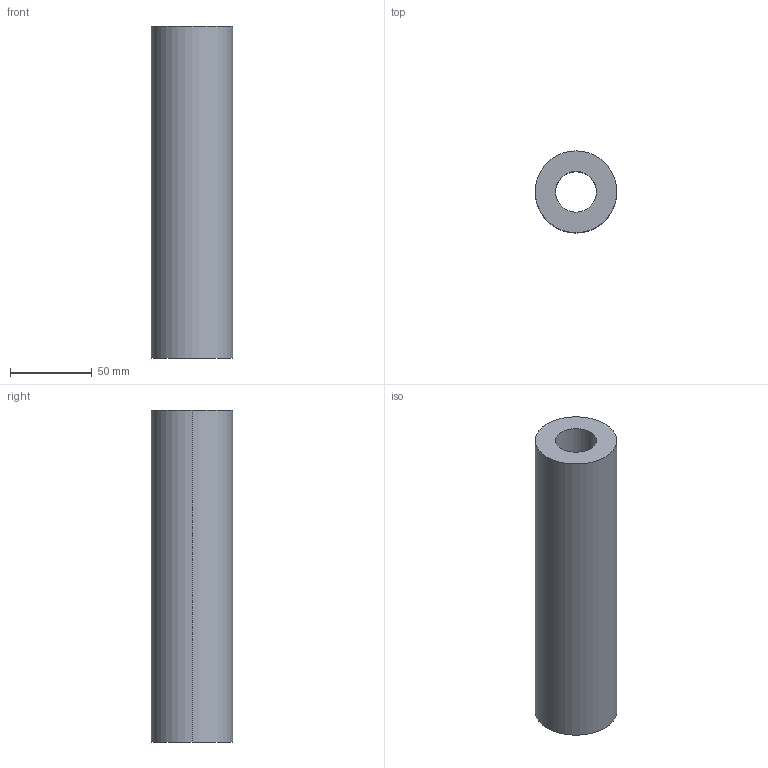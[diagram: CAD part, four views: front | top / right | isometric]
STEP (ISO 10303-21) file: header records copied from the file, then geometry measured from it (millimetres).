
FILE_DESCRIPTION (( 'STEP AP214' ), '1' );
FILE_NAME ('BRA-50X203.STEP', '2020-07-20T11:59:40', ( 'August' ), ( '' ), 'SwSTEP 2.0', 'SolidWorks 2018', '' );
FILE_SCHEMA (( 'AUTOMOTIVE_DESIGN' ));
Length unit declared in the file: millimetre
Products named in the file (1): BRA-50X203
Bounding box: 50 x 50 x 203 mm (x, y, z)
Volume: 298942.2 mm3; surface area: 50776 mm2
Topology: 1 solids, 1 shells, 6 faces, 12 edges, 8 vertices
Faces by surface type: cylinder 4, plane 2
Entity records: 202 total; most frequent: DIRECTION 34, CARTESIAN_POINT 27, ORIENTED_EDGE 24, AXIS2_PLACEMENT_3D 15, EDGE_CURVE 12, VERTEX_POINT 8, CIRCLE 8, EDGE_LOOP 8
